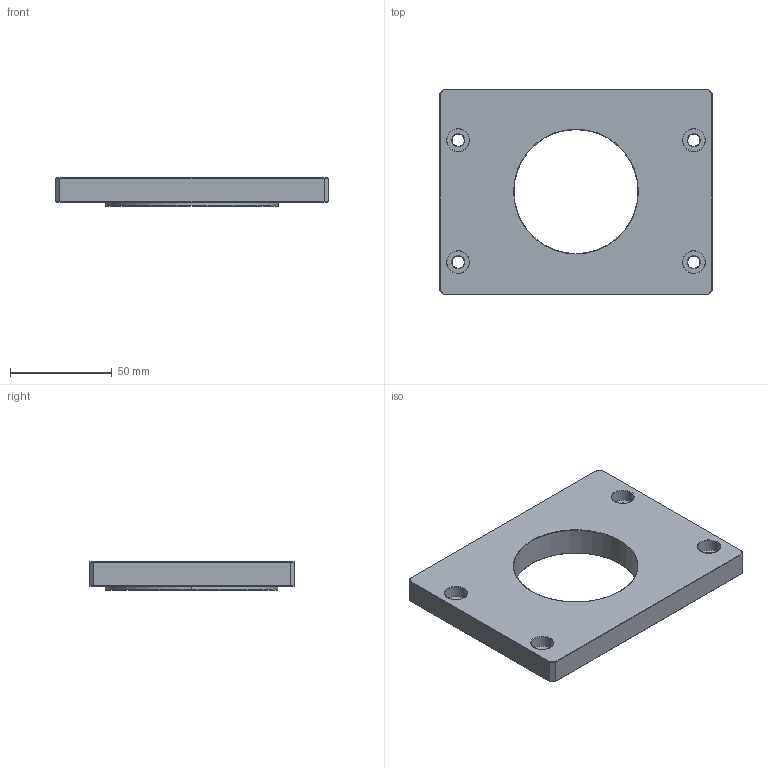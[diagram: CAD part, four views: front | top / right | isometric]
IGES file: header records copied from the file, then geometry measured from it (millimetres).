
Start section:  PTC IGES file: MI100.igs
Global section: file name: MI100.igs; native system: Pro/ENGINEER by Parametric Technology Corporation; preprocessor: 2009440; author: Owner; organization: Unknown; date: 20170523.172933; units: millimetre
Bounding box: 134 x 101 x 14 mm (x, y, z)
Surface area: 30872.7 mm2 (no closed solid volume)
Topology: 0 solids, 0 shells, 81 faces, 352 edges, 352 vertices
Faces by surface type: revolution 50, bspline 31
